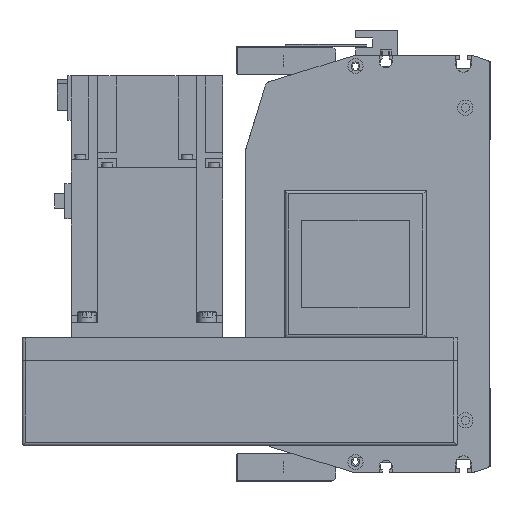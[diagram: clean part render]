
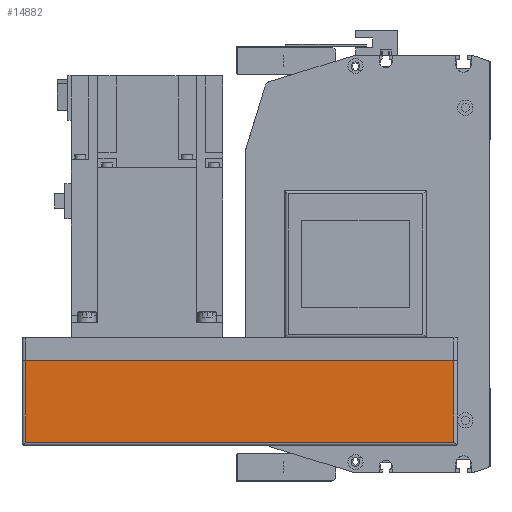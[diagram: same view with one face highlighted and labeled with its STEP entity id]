
A CAD part, left-side view. The second image highlights one B-rep face of the part: STEP entity #14882.
In plain terms, the highlighted planar face has unit normal (-1, 0, 0) as drawn and (0, -1, 0) by its records, which use the part's own axes.
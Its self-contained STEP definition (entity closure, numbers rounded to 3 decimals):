
#2411=ORIENTED_EDGE('',*,*,#5994,.F.);
#2412=ORIENTED_EDGE('',*,*,#5997,.T.);
#2413=ORIENTED_EDGE('',*,*,#5998,.T.);
#2414=ORIENTED_EDGE('',*,*,#5999,.F.);
#5994=EDGE_CURVE('',#7913,#7914,#9457,.T.);
#5997=EDGE_CURVE('',#7913,#7916,#9459,.T.);
#5998=EDGE_CURVE('',#7916,#7917,#9460,.T.);
#5999=EDGE_CURVE('',#7914,#7917,#9461,.T.);
#7913=VERTEX_POINT('',#23187);
#7914=VERTEX_POINT('',#23189);
#7916=VERTEX_POINT('',#23195);
#7917=VERTEX_POINT('',#23197);
#9457=LINE('',#23188,#10808);
#9459=LINE('',#23194,#10810);
#9460=LINE('',#23196,#10811);
#9461=LINE('',#23198,#10812);
#10808=VECTOR('',#18508,1000.);
#10810=VECTOR('',#18514,1000.);
#10811=VECTOR('',#18515,1000.);
#10812=VECTOR('',#18516,1000.);
#11984=EDGE_LOOP('',(#2411,#2412,#2413,#2414));
#13191=FACE_BOUND('',#11984,.T.);
#14254=PLANE('',#15958);
#14882=ADVANCED_FACE('',(#13191),#14254,.T.);
#15958=AXIS2_PLACEMENT_3D('',#23193,#18512,#18513);
#18508=DIRECTION('',(0.,0.,1.));
#18512=DIRECTION('',(0.,-1.,0.));
#18513=DIRECTION('',(0.,0.,-1.));
#18514=DIRECTION('',(1.,0.,0.));
#18515=DIRECTION('',(0.,0.,1.));
#18516=DIRECTION('',(1.,0.,0.));
#23187=CARTESIAN_POINT('',(-228.,-54.,-55.));
#23188=CARTESIAN_POINT('',(-228.,-54.,-57.));
#23189=CARTESIAN_POINT('',(-228.,-54.,-12.));
#23193=CARTESIAN_POINT('',(-228.,-54.,-57.));
#23194=CARTESIAN_POINT('',(-230.,-54.,-55.));
#23195=CARTESIAN_POINT('',(-2.,-54.,-55.));
#23196=CARTESIAN_POINT('',(-2.,-54.,-57.));
#23197=CARTESIAN_POINT('',(-2.,-54.,-12.));
#23198=CARTESIAN_POINT('',(-228.,-54.,-12.));
